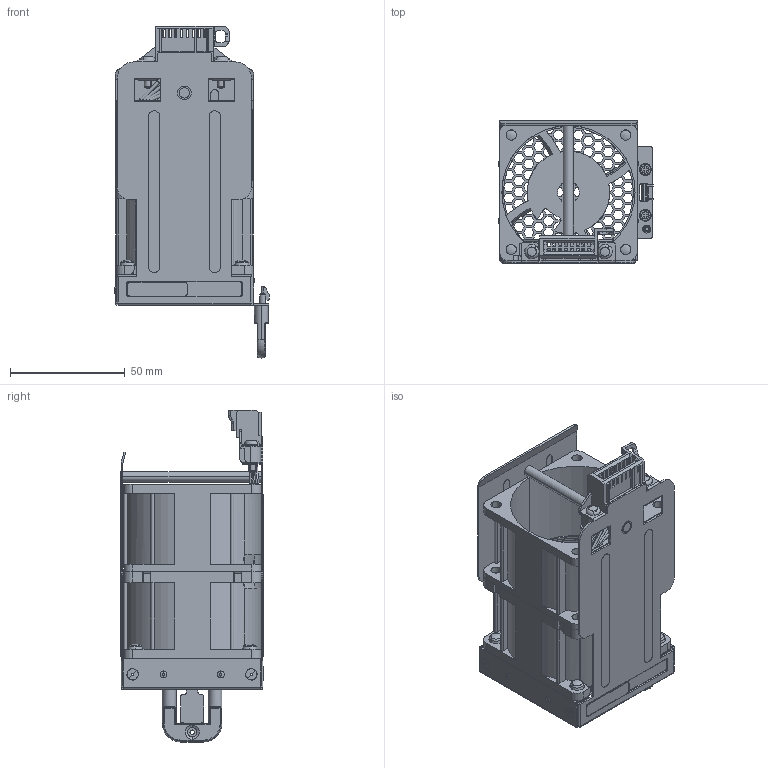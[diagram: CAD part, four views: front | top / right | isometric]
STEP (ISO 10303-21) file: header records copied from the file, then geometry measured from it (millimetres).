
FILE_DESCRIPTION((''),'2;1');
FILE_NAME('60X60X76-FAN-TRAY-MODULE-RB0_2_ASM','2019-07-31T',('curtis_chen'),(''),'PRO/ENGINEER BY PARAMETRIC TECHNOLOGY CORPORATION, 2012480','PRO/ENGINEER BY PARAMETRIC TECHNOLOGY CORPORATION, 2012480','');
FILE_SCHEMA(('AUTOMOTIVE_DESIGN { 1 0 10303 214 1 1 1 1 }'));
Length unit declared in the file: millimetre
Products named in the file (44): SRR4_5-9A; SRR4_5-9A_STP_ASM; SRR4_5-9B; SRR4_5-9B_STP_ASM; 124500000012A-SRR4_5-8_3_ASM; SR3-12B; SR3-12A; 124500000013A-SR3-12_ASM; 246041-001_26X6_; PRT0080; PRT0081; FLAT-RIVET-V_3_1; PRT0082; PRT0083; PRT0084; PRT0085; PRT0086; FAN-TRAY-BRK_2; ASM0027_ASM; WIRE-5-548350; WIRE-8-534060; WIRE-6-524810; WIRE-1-512320; WIRE-4-499470; WIRE-7-488420; WIRE-2-478450; WIRE-3-466320; ASM0028_ASM; WIRE-5-454380; WIRE-2-453830; WIRE-6-453310; WIRE-8-452580; WIRE-3-452120; WIRE-4-451180; WIRE-7-450240; WIRE-1-449780; ASM0029_ASM; K201001740G_0-2; K201001750G_0-2; 6076_FRAME_ASM_ASM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
Assembly tree (51 placements, depth 5):
  60X60X76-FAN-TRAY-MODULE-RB0_2_ASM
    124500000012A-SRR4_5-8_3_ASM  x4
      SRR4_5-9A_STP_ASM
        SRR4_5-9A
      SRR4_5-9B_STP_ASM
        SRR4_5-9B
    124500000013A-SR3-12_ASM  x2
      SR3-12B
      SR3-12A
    246041-001_26X6_
    ASM0027_ASM
      PRT0080
      PRT0081
      FLAT-RIVET-V_3_1  x4
      PRT0082
      PRT0083
      PRT0084
      PRT0085  x2
      PRT0086
      FAN-TRAY-BRK_2
    117000000188A_FTB_-FAN-60X60X76_ASM
      ASM0028_ASM
        WIRE-5-548350
        WIRE-8-534060
        WIRE-6-524810
        WIRE-1-512320
        WIRE-4-499470
        WIRE-7-488420
        WIRE-2-478450
        WIRE-3-466320
      ASM0029_ASM
        WIRE-5-454380
        WIRE-2-453830
        WIRE-6-453310
        WIRE-8-452580
        WIRE-3-452120
        WIRE-4-451180
        WIRE-7-450240
        WIRE-1-449780
      FAN60X60X76-PF60761BX-0000-S99__ASM
        6076_FRAME_ASM_ASM
          K201001740G_0-2
          K201001750G_0-2
      PRT0087
Bounding box: 67.5 x 62.15 x 144.9 mm (x, y, z)
Volume: 58007.4 mm3; surface area: 90388.4 mm2
Topology: 37 solids, 37 shells, 3137 faces, 8990 edges, 5921 vertices
Faces by surface type: plane 2223, cylinder 544, cone 146, bspline 111, torus 103, sphere 10
Entity records: 146341 total; most frequent: CARTESIAN_POINT 32768, ORIENTED_EDGE 16688, DIRECTION 15200, PRESENTATION_STYLE_ASSIGNMENT 9659, STYLED_ITEM 9638, CURVE_STYLE 8344, EDGE_CURVE 8344, VECTOR 6636
